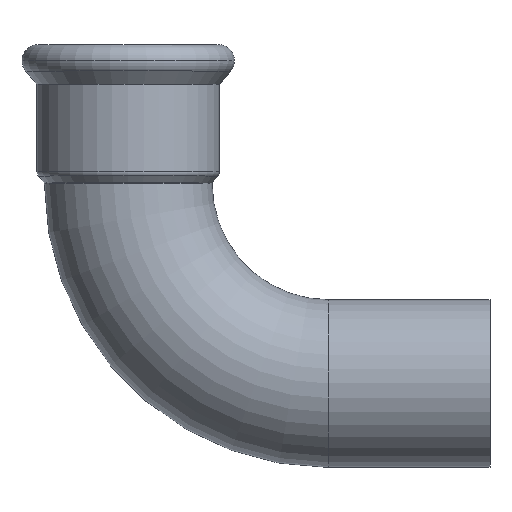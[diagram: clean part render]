
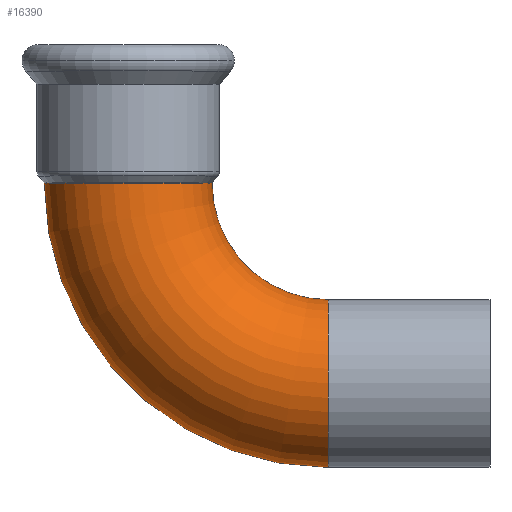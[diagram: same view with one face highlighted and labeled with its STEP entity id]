
A CAD part, top view. The second image highlights one B-rep face of the part: STEP entity #16390.
In plain terms, the highlighted toroidal (fillet/blend) face has major radius 42 mm and minor radius 17.594 mm.
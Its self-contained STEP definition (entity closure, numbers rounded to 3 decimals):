
#13880=CARTESIAN_POINT('',(-270.917,193.422,0.));
#13890=VERTEX_POINT('',#13880);
#14040=CARTESIAN_POINT('',(-306.106,193.422,
0.));
#14050=VERTEX_POINT('',#14040);
#14130=CARTESIAN_POINT('',(-246.511,193.422,0.));
#14140=DIRECTION('',(0.,0.,1.));
#14150=DIRECTION('',(-1.,0.,0.));
#14160=AXIS2_PLACEMENT_3D('',#14130,#14140,#14150);
#14170=TOROIDAL_SURFACE('',#14160,42.,17.594);
#14180=CARTESIAN_POINT('',(-246.511,193.422,0.));
#14190=DIRECTION('',(0.,0.,1.));
#14200=DIRECTION('',(-1.,0.,0.));
#14210=AXIS2_PLACEMENT_3D('',#14180,#14190,#14200);
#14220=CIRCLE('',#14210,24.406);
#14230=CARTESIAN_POINT('',(-246.511,169.016,0.));
#14240=VERTEX_POINT('',#14230);
#14250=EDGE_CURVE('',#13890,#14240,#14220,.T.);
#14290=CARTESIAN_POINT('',(-246.511,193.422,
0.));
#14300=DIRECTION('',(0.,0.,1.));
#14310=DIRECTION('',(-1.,0.,0.));
#14320=AXIS2_PLACEMENT_3D('',#14290,#14300,#14310);
#14330=CIRCLE('',#14320,59.594);
#14340=CARTESIAN_POINT('',(-246.511,133.828,
0.));
#14350=VERTEX_POINT('',#14340);
#14360=EDGE_CURVE('',#14050,#14350,#14330,.T.);
#14380=CARTESIAN_POINT('',(-246.511,151.422,0.));
#14390=DIRECTION('',(1.,0.,0.));
#14400=DIRECTION('',(0.,1.,0.));
#14410=AXIS2_PLACEMENT_3D('',#14380,#14390,#14400);
#14420=CIRCLE('',#14410,17.594);
#15000=EDGE_CURVE('',#14240,#14350,#14420,.T.);
#16270=CARTESIAN_POINT('',(-288.511,193.422,0.));
#16280=DIRECTION('',(0.,-1.,0.));
#16290=DIRECTION('',(1.,0.,0.));
#16300=AXIS2_PLACEMENT_3D('',#16270,#16280,#16290);
#16310=CIRCLE('',#16300,17.594);
#16320=EDGE_CURVE('',#13890,#14050,#16310,.T.);
#16330=ORIENTED_EDGE('',*,*,#16320,.T.);
#16340=ORIENTED_EDGE('',*,*,#14250,.F.);
#16350=ORIENTED_EDGE('',*,*,#15000,.F.);
#16360=ORIENTED_EDGE('',*,*,#14360,.T.);
#16370=EDGE_LOOP('',(#16360,#16350,#16340,#16330));
#16380=FACE_OUTER_BOUND('',#16370,.T.);
#16390=ADVANCED_FACE('',(#16380),#14170,.T.);
